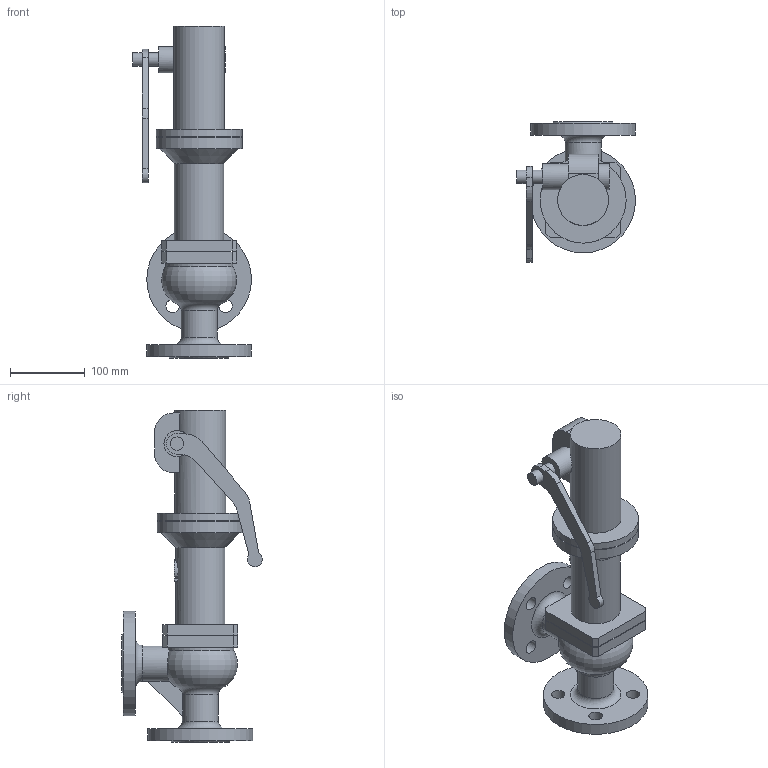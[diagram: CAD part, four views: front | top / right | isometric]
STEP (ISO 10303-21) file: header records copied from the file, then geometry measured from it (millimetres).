
FILE_DESCRIPTION(('STEP AP203'), '1');
FILE_NAME('Êëàïàí ïðåäîõðàíèòåëüíûé ñðåäíåïîäüåìíûé SV1F 32x32', '', ('UNSPECIFIED'), ('UNSPECIFIED'), 'ASCON STEP Converter 1.6', 'ASCON Math Kernel', '');
FILE_SCHEMA(('CONFIG_CONTROL_DESIGN'));
Length unit declared in the file: millimetre
Bounding box: 159 x 187.9 x 444 mm (x, y, z)
Volume: 2024672.2 mm3; surface area: 320114.1 mm2
Topology: 1 solids, 3 shells, 121 faces, 307 edges, 201 vertices
Faces by surface type: plane 69, cylinder 44, torus 5, cone 3
Full cylindrical faces by diameter (mm): 18 x10, 32 x3, 35 x2, 48 x2, 50 x1, 52 x1, 66 x1, 68 x1, 77 x1, 95 x1, 115 x2, 140 x2
Entity records: 5899 total; most frequent: CARTESIAN_POINT 2082, DIRECTION 582, ORIENTED_EDGE 526, EDGE_CURVE 263, AXIS2_PLACEMENT_3D 228, VERTEX_POINT 197, EDGE_LOOP 190, FACE_BOUND 137
